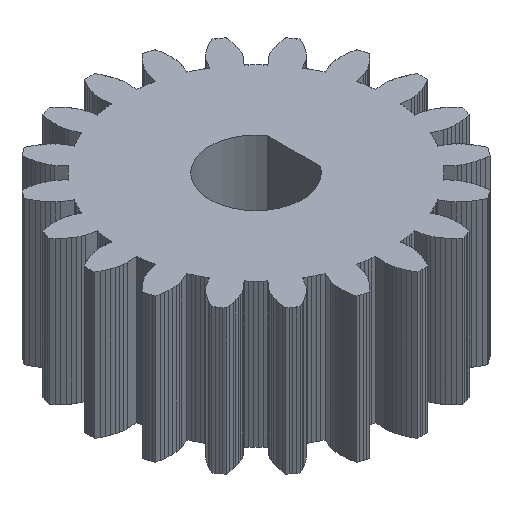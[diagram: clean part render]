
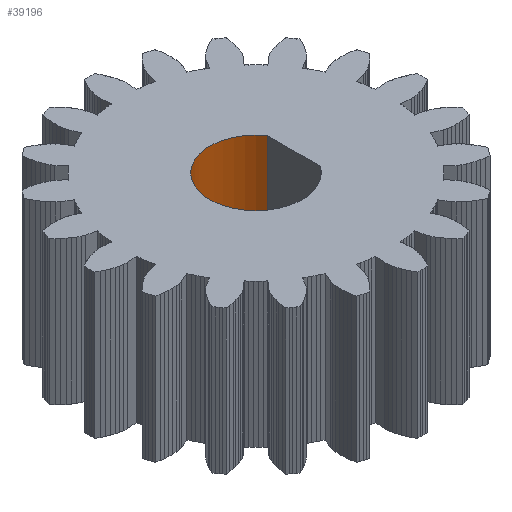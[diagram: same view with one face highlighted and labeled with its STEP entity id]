
A CAD part, isometric view. The second image highlights one B-rep face of the part: STEP entity #39196.
In plain terms, the highlighted cylindrical face has radius 3.05 mm (diameter 6.1 mm), a partial arc.
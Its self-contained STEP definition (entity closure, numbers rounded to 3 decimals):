
#72 = PLANE('',#73);
#73 = AXIS2_PLACEMENT_3D('',#74,#75,#76);
#74 = CARTESIAN_POINT('',(0.,0.,4.75));
#75 = DIRECTION('',(0.,0.,1.));
#76 = DIRECTION('',(1.,0.,-0.));
#126 = PLANE('',#127);
#127 = AXIS2_PLACEMENT_3D('',#128,#129,#130);
#128 = CARTESIAN_POINT('',(0.,0.,-4.75)
  );
#129 = DIRECTION('',(0.,0.,1.));
#130 = DIRECTION('',(1.,0.,-0.));
#14203 = VERTEX_POINT('',#14204);
#14204 = CARTESIAN_POINT('',(2.5,1.747,-4.75));
#14205 = VERTEX_POINT('',#14206);
#14206 = CARTESIAN_POINT('',(2.5,-1.747,-4.75));
#14220 = PLANE('',#14221);
#14221 = AXIS2_PLACEMENT_3D('',#14222,#14223,#14224);
#14222 = CARTESIAN_POINT('',(2.5,-6.1,-14.75));
#14223 = DIRECTION('',(-1.,0.,0.));
#14224 = DIRECTION('',(0.,1.,0.));
#14232 = EDGE_CURVE('',#14205,#14203,#14233,.T.);
#14233 = SURFACE_CURVE('',#14234,(#14239,#14250),.PCURVE_S1.);
#14234 = CIRCLE('',#14235,3.05);
#14235 = AXIS2_PLACEMENT_3D('',#14236,#14237,#14238);
#14236 = CARTESIAN_POINT('',(0.,0.,-4.75));
#14237 = DIRECTION('',(0.,0.,-1.));
#14238 = DIRECTION('',(1.,0.,0.));
#14239 = PCURVE('',#126,#14240);
#14240 = DEFINITIONAL_REPRESENTATION('',(#14241),#14249);
#14241 = ( BOUNDED_CURVE() B_SPLINE_CURVE(2,(#14242,#14243,#14244,#14245
    ,#14246,#14247,#14248),.UNSPECIFIED.,.T.,.F.) 
B_SPLINE_CURVE_WITH_KNOTS((1,2,2,2,2,1),(-2.094,0.,
    2.094,4.189,6.283,8.378),
.UNSPECIFIED.) CURVE() GEOMETRIC_REPRESENTATION_ITEM() 
RATIONAL_B_SPLINE_CURVE((1.,0.5,1.,0.5,1.,0.5,1.)) REPRESENTATION_ITEM(
  '') );
#14242 = CARTESIAN_POINT('',(3.05,0.));
#14243 = CARTESIAN_POINT('',(3.05,-5.283));
#14244 = CARTESIAN_POINT('',(-1.525,-2.641));
#14245 = CARTESIAN_POINT('',(-6.1,0.));
#14246 = CARTESIAN_POINT('',(-1.525,2.641));
#14247 = CARTESIAN_POINT('',(3.05,5.283));
#14248 = CARTESIAN_POINT('',(3.05,0.));
#14249 = ( GEOMETRIC_REPRESENTATION_CONTEXT(2) 
PARAMETRIC_REPRESENTATION_CONTEXT() REPRESENTATION_CONTEXT('2D SPACE',''
  ) );
#14250 = PCURVE('',#14251,#14256);
#14251 = CYLINDRICAL_SURFACE('',#14252,3.05);
#14252 = AXIS2_PLACEMENT_3D('',#14253,#14254,#14255);
#14253 = CARTESIAN_POINT('',(0.,0.,-5.25));
#14254 = DIRECTION('',(-0.,-0.,-1.));
#14255 = DIRECTION('',(1.,0.,0.));
#14256 = DEFINITIONAL_REPRESENTATION('',(#14257),#14261);
#14257 = LINE('',#14258,#14259);
#14258 = CARTESIAN_POINT('',(-6.283,-0.5));
#14259 = VECTOR('',#14260,1.);
#14260 = DIRECTION('',(1.,-0.));
#14261 = ( GEOMETRIC_REPRESENTATION_CONTEXT(2) 
PARAMETRIC_REPRESENTATION_CONTEXT() REPRESENTATION_CONTEXT('2D SPACE',''
  ) );
#25701 = VERTEX_POINT('',#25702);
#25702 = CARTESIAN_POINT('',(2.5,1.747,4.75));
#25703 = VERTEX_POINT('',#25704);
#25704 = CARTESIAN_POINT('',(2.5,-1.747,4.75));
#25725 = EDGE_CURVE('',#25703,#25701,#25726,.T.);
#25726 = SURFACE_CURVE('',#25727,(#25732,#25743),.PCURVE_S1.);
#25727 = CIRCLE('',#25728,3.05);
#25728 = AXIS2_PLACEMENT_3D('',#25729,#25730,#25731);
#25729 = CARTESIAN_POINT('',(0.,0.,4.75));
#25730 = DIRECTION('',(0.,0.,-1.));
#25731 = DIRECTION('',(1.,0.,0.));
#25732 = PCURVE('',#72,#25733);
#25733 = DEFINITIONAL_REPRESENTATION('',(#25734),#25742);
#25734 = ( BOUNDED_CURVE() B_SPLINE_CURVE(2,(#25735,#25736,#25737,#25738
    ,#25739,#25740,#25741),.UNSPECIFIED.,.T.,.F.) 
B_SPLINE_CURVE_WITH_KNOTS((1,2,2,2,2,1),(-2.094,0.,
    2.094,4.189,6.283,8.378),
.UNSPECIFIED.) CURVE() GEOMETRIC_REPRESENTATION_ITEM() 
RATIONAL_B_SPLINE_CURVE((1.,0.5,1.,0.5,1.,0.5,1.)) REPRESENTATION_ITEM(
  '') );
#25735 = CARTESIAN_POINT('',(3.05,0.));
#25736 = CARTESIAN_POINT('',(3.05,-5.283));
#25737 = CARTESIAN_POINT('',(-1.525,-2.641));
#25738 = CARTESIAN_POINT('',(-6.1,0.));
#25739 = CARTESIAN_POINT('',(-1.525,2.641));
#25740 = CARTESIAN_POINT('',(3.05,5.283));
#25741 = CARTESIAN_POINT('',(3.05,0.));
#25742 = ( GEOMETRIC_REPRESENTATION_CONTEXT(2) 
PARAMETRIC_REPRESENTATION_CONTEXT() REPRESENTATION_CONTEXT('2D SPACE',''
  ) );
#25743 = PCURVE('',#14251,#25744);
#25744 = DEFINITIONAL_REPRESENTATION('',(#25745),#25749);
#25745 = LINE('',#25746,#25747);
#25746 = CARTESIAN_POINT('',(-6.283,-10.));
#25747 = VECTOR('',#25748,1.);
#25748 = DIRECTION('',(1.,-0.));
#25749 = ( GEOMETRIC_REPRESENTATION_CONTEXT(2) 
PARAMETRIC_REPRESENTATION_CONTEXT() REPRESENTATION_CONTEXT('2D SPACE',''
  ) );
#39153 = EDGE_CURVE('',#25703,#14205,#39154,.T.);
#39154 = SURFACE_CURVE('',#39155,(#39159,#39166),.PCURVE_S1.);
#39155 = LINE('',#39156,#39157);
#39156 = CARTESIAN_POINT('',(2.5,-1.747,-5.25));
#39157 = VECTOR('',#39158,1.);
#39158 = DIRECTION('',(-0.,-0.,-1.));
#39159 = PCURVE('',#14220,#39160);
#39160 = DEFINITIONAL_REPRESENTATION('',(#39161),#39165);
#39161 = LINE('',#39162,#39163);
#39162 = CARTESIAN_POINT('',(4.353,-9.5));
#39163 = VECTOR('',#39164,1.);
#39164 = DIRECTION('',(0.,1.));
#39165 = ( GEOMETRIC_REPRESENTATION_CONTEXT(2) 
PARAMETRIC_REPRESENTATION_CONTEXT() REPRESENTATION_CONTEXT('2D SPACE',''
  ) );
#39166 = PCURVE('',#14251,#39167);
#39167 = DEFINITIONAL_REPRESENTATION('',(#39168),#39172);
#39168 = LINE('',#39169,#39170);
#39169 = CARTESIAN_POINT('',(-5.673,0.));
#39170 = VECTOR('',#39171,1.);
#39171 = DIRECTION('',(-0.,1.));
#39172 = ( GEOMETRIC_REPRESENTATION_CONTEXT(2) 
PARAMETRIC_REPRESENTATION_CONTEXT() REPRESENTATION_CONTEXT('2D SPACE',''
  ) );
#39175 = EDGE_CURVE('',#25701,#14203,#39176,.T.);
#39176 = SURFACE_CURVE('',#39177,(#39181,#39188),.PCURVE_S1.);
#39177 = LINE('',#39178,#39179);
#39178 = CARTESIAN_POINT('',(2.5,1.747,-5.25));
#39179 = VECTOR('',#39180,1.);
#39180 = DIRECTION('',(-0.,-0.,-1.));
#39181 = PCURVE('',#14220,#39182);
#39182 = DEFINITIONAL_REPRESENTATION('',(#39183),#39187);
#39183 = LINE('',#39184,#39185);
#39184 = CARTESIAN_POINT('',(7.847,-9.5));
#39185 = VECTOR('',#39186,1.);
#39186 = DIRECTION('',(0.,1.));
#39187 = ( GEOMETRIC_REPRESENTATION_CONTEXT(2) 
PARAMETRIC_REPRESENTATION_CONTEXT() REPRESENTATION_CONTEXT('2D SPACE',''
  ) );
#39188 = PCURVE('',#14251,#39189);
#39189 = DEFINITIONAL_REPRESENTATION('',(#39190),#39194);
#39190 = LINE('',#39191,#39192);
#39191 = CARTESIAN_POINT('',(-0.61,0.));
#39192 = VECTOR('',#39193,1.);
#39193 = DIRECTION('',(-0.,1.));
#39194 = ( GEOMETRIC_REPRESENTATION_CONTEXT(2) 
PARAMETRIC_REPRESENTATION_CONTEXT() REPRESENTATION_CONTEXT('2D SPACE',''
  ) );
#39196 = ADVANCED_FACE('',(#39197),#14251,.F.);
#39197 = FACE_BOUND('',#39198,.T.);
#39198 = EDGE_LOOP('',(#39199,#39200,#39201,#39202));
#39199 = ORIENTED_EDGE('',*,*,#14232,.T.);
#39200 = ORIENTED_EDGE('',*,*,#39175,.F.);
#39201 = ORIENTED_EDGE('',*,*,#25725,.F.);
#39202 = ORIENTED_EDGE('',*,*,#39153,.T.);
